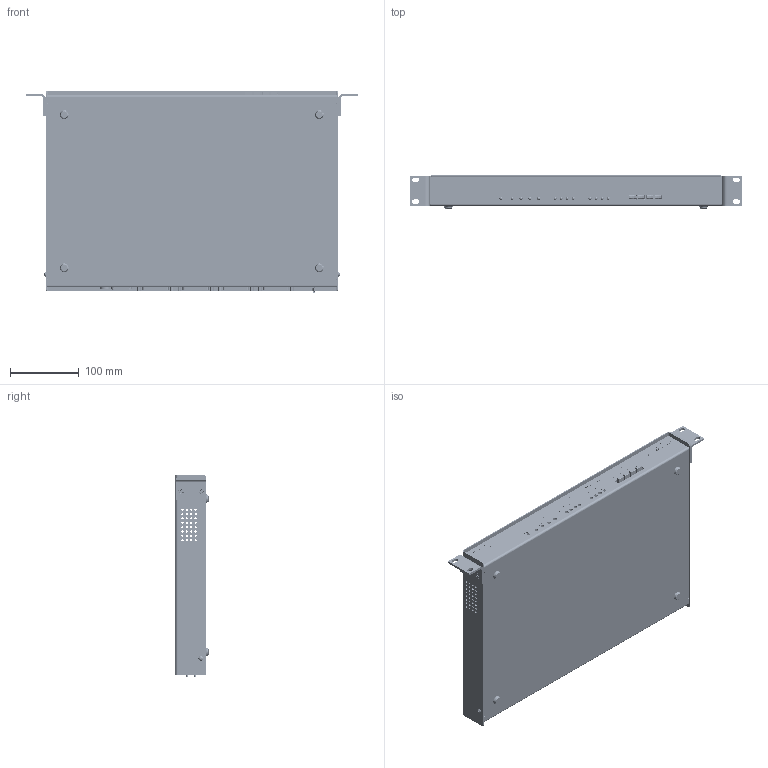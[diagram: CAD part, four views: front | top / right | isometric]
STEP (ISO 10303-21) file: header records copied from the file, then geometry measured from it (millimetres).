
FILE_DESCRIPTION(/* description */ (''),/* implementation_level */ '2;1');
FILE_NAME(/* name */ 'MSD-4 1U With Studs.step',/* time_stamp */ '2023-02-06T10:59:06-05:00',/* author */ (''),/* organization */ (''),/* preprocessor_version */ 'ST-DEVELOPER v19.2',/* originating_system */ 'Autodesk Translation Framework v11.17.0.187',/* authorisation */ '');
FILE_SCHEMA (('AUTOMOTIVE_DESIGN { 1 0 10303 214 3 1 1 }'));
Products named in the file (34): Master Assembly; Chassis; 93090A210_Press-Fit Threaded Standoffs; FHS-632-8; FHS-632-6; PCB_less; 713025; K22X(HT)-B25S-N_rA3(rA2); 713025 (1); K22X(HT)-B25S-N_rA3(rA2) (1); 713025 (2); K22X(HT)-B25S-N_rA3(rA2) (2); 708002; K42X-B25S-S-A4NJ_rA3; 710001; 708002 (1); P:/E-Switch Secure/3D_MODELS_STP_FORMAT/PBH2UxxNAGX.stp (1); 708002_1; 708002_2; P:/E-Switch Secure/3D_MODELS_STP_FORMAT/PBH2UxxNAGX.stp; 713005; Power Supply XFMR; 4-40 x 1/4" Screw; 715000; 702002; 702001 ; Component1; Chassis Cover; CLS-832-2-PennEngineering-3D-06-03-2022; 715018; Standard Bracket; Rackmount Countersink; 715001; 708006
Assembly tree (90 placements, depth 4):
  Master Assembly
    Chassis
      93090A210_Press-Fit Threaded Standoffs  x7
      FHS-632-8
      CLS-832-2-PennEngineering-3D-06-03-2022  x4
      FHS-632-6  x3
    PCB_less
      713025
        K22X(HT)-B25S-N_rA3(rA2)
      713025 (1)
        K22X(HT)-B25S-N_rA3(rA2) (1)
      713025 (2)
        K22X(HT)-B25S-N_rA3(rA2) (2)
      708002
        P:/E-Switch Secure/3D_MODELS_STP_FORMAT/PBH2UxxNAGX.stp
      K42X-B25S-S-A4NJ_rA3
      710001  x13
      708002 (1)
        P:/E-Switch Secure/3D_MODELS_STP_FORMAT/PBH2UxxNAGX.stp (1)
      708002_1
        P:/E-Switch Secure/3D_MODELS_STP_FORMAT/PBH2UxxNAGX.stp
      708002_2
        P:/E-Switch Secure/3D_MODELS_STP_FORMAT/PBH2UxxNAGX.stp
      713005  x5
      Power Supply XFMR
    4-40 x 1/4" Screw  x7
    715000  x10
    702002
    702001 
      Component1
    Chassis Cover
      CLS-832-2-PennEngineering-3D-06-03-2022  x2
    715018  x2
    Standard Bracket  x2
    Rackmount Countersink  x4
    715001  x4
    708006  x4
Bounding box: 482.6 x 47.98 x 293.47 mm (x, y, z)
Volume: 709507.2 mm3; surface area: 839074.7 mm2
Topology: 122 solids, 126 shells, 13672 faces, 36310 edges, 23630 vertices
Faces by surface type: plane 7599, bspline 3331, cylinder 2070, cone 369, torus 220, sphere 83
Full cylindrical faces by diameter (mm): 0.885 x1, 0.925 x1, 1.15 x75, 1.2 x50, 1.333 x5, 1.4 x2, 1.982 x1, 2.02 x112, 2.271 x20, 2.35 x6, 2.474 x46, 2.6 x3, 2.76 x4, 2.845 x132, 2.9 x6, 2.91 x4, 3 x3, 3.1 x8, 3.134 x20, 3.14 x4, 3.175 x76, 3.307 x6, 3.4 x4, 3.48 x3, 3.505 x48, 3.556 x14, 4.1 x10, 4.166 x24, 4.191 x7, 4.216 x7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
Entity records: 403217 total; most frequent: CARTESIAN_POINT 143002, ORIENTED_EDGE 58556, DIRECTION 41297, EDGE_CURVE 29278, LINE 19347, VECTOR 19347, VERTEX_POINT 19046, EDGE_LOOP 12170
